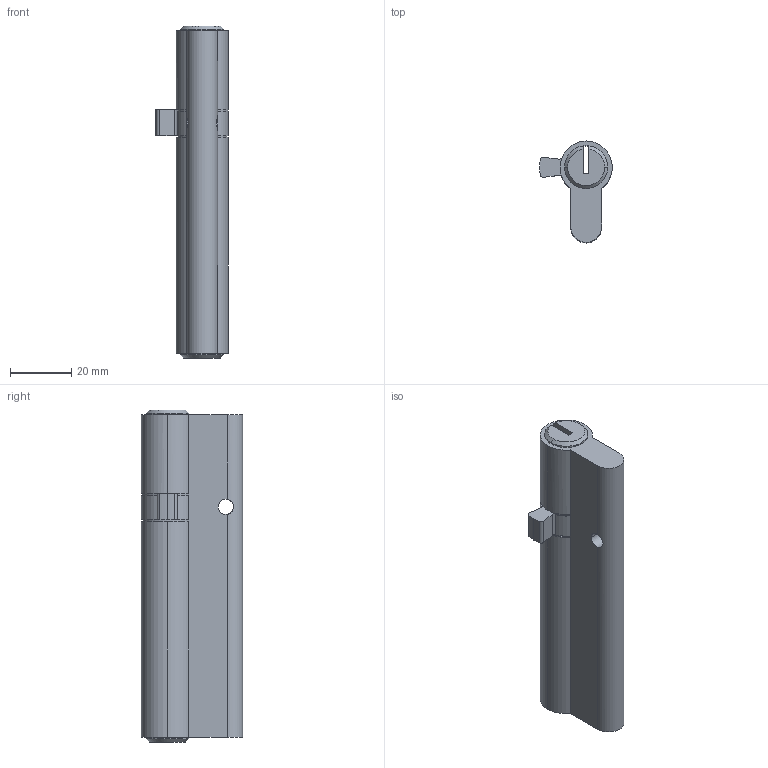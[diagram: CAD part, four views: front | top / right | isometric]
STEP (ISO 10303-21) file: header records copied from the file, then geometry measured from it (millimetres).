
FILE_DESCRIPTION (( 'STEP AP214' ), '1' );
FILE_NAME ('TPL-H-EU-524-R 29Oct2024.STEP', '2024-10-29T22:32:37', ( '' ), ( '' ), 'SwSTEP 2.0', 'SolidWorks 2023', '' );
FILE_SCHEMA (( 'AUTOMOTIVE_DESIGN' ));
Length unit declared in the file: millimetre
Products named in the file (1): TPL-H-EU-524-R 29Oct2024
Bounding box: 23.6 x 33 x 108 mm (x, y, z)
Volume: 38838.6 mm3; surface area: 12317.2 mm2
Topology: 1 solids, 1 shells, 52 faces, 144 edges, 90 vertices
Faces by surface type: cylinder 30, plane 16, cone 6
Entity records: 1775 total; most frequent: CARTESIAN_POINT 363, DIRECTION 314, ORIENTED_EDGE 288, EDGE_CURVE 144, AXIS2_PLACEMENT_3D 125, VERTEX_POINT 90, CIRCLE 72, VECTOR 64
